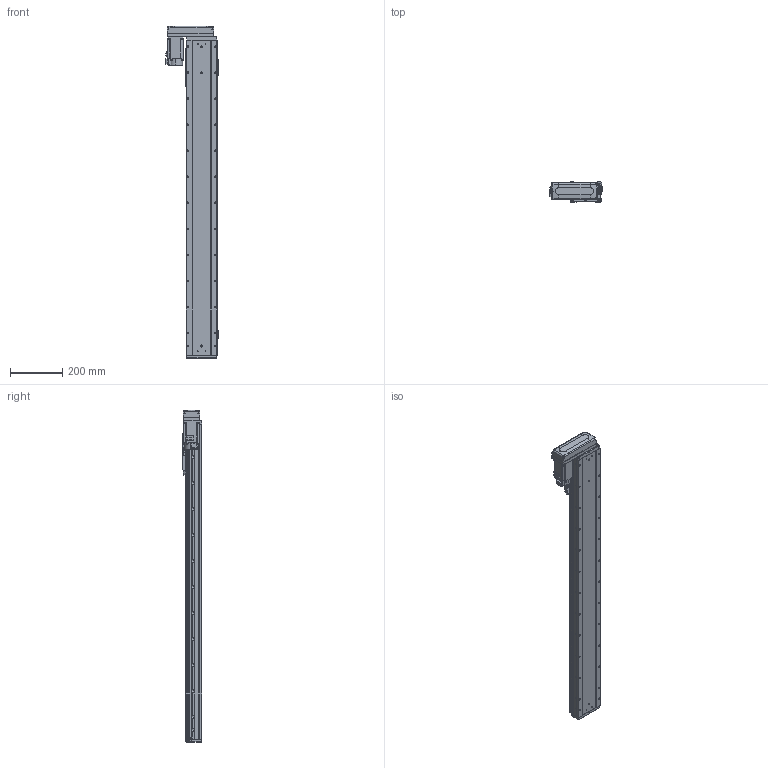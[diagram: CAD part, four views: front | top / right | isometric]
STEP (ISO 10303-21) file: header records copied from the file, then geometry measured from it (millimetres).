
FILE_DESCRIPTION (( 'STEP AP203' ), '1' );
FILE_NAME ('GTH12-1000-BR-M40-C4.step', '2023-07-05T00:04:47', ( '微软用户' ), ( '微软中国' ), 'SwSTEP 2.0', 'SolidWorks 2020', '' );
FILE_SCHEMA (( 'CONFIG_CONTROL_DESIGN' ));
Length unit declared in the file: millimetre
Products named in the file (18): GTH120-013; GTH50-024; GBT 70.1-M3℅6; GBT96.1-2002 3×0.8; GBT 70.1-M5×16; BTH-M3X5X6; GTH120-001_1000; GBT 70.3-M3℅8; hg-kn43j_-s100_; GTH120-003; GTH80-022; CTHA86-033_M40B; GTH120-006; GTH80-028; GTH120-027-1_GTH120-027-2; GTH120-004; GTH50-023; GTH12-1000-BR-M40-C4
Assembly tree (59 placements, depth 2):
  GTH12-1000-BR-M40-C4
    GTH120-001_1000
    GTH120-003
    GTH120-006
    GTH120-004
    GTH120-013
    GBT 70.1-M3℅6  x14
    GBT 70.1-M5×16  x10
    GBT 70.3-M3℅8  x4
    GTH80-022
    GTH80-028  x2
    GTH50-023  x3
    GTH50-024  x3
    GBT96.1-2002 3×0.8  x6
    BTH-M3X5X6  x8
    hg-kn43j_-s100_
    CTHA86-033_M40B
    GTH120-027-1_GTH120-027-2
Bounding box: 203.5 x 76 x 1275.5 mm (x, y, z)
Volume: 9166890.9 mm3; surface area: 787082.8 mm2
Topology: 61 solids, 61 shells, 2543 faces, 5960 edges, 3659 vertices
Faces by surface type: plane 1294, cylinder 753, cone 308, torus 174, sphere 8, bspline 6
Entity records: 48682 total; most frequent: CARTESIAN_POINT 8248, DIRECTION 8100, ORIENTED_EDGE 7530, EDGE_CURVE 3765, AXIS2_PLACEMENT_3D 2832, VECTOR 2436, LINE 2436, VERTEX_POINT 2380
